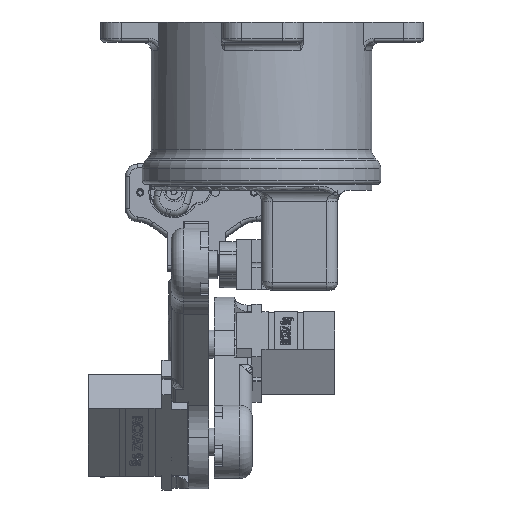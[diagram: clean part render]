
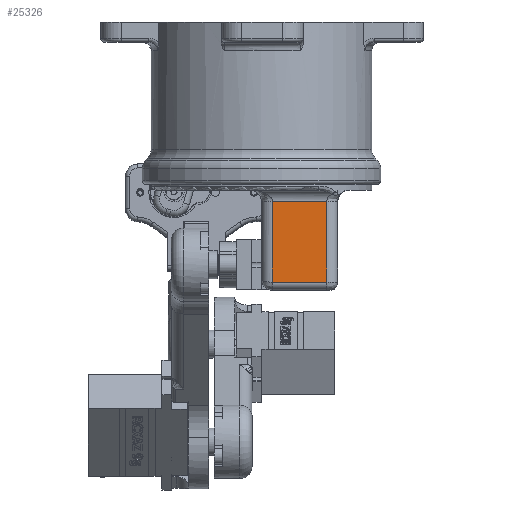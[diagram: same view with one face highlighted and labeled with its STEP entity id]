
A CAD part, left-side view. The second image highlights one B-rep face of the part: STEP entity #25326.
In plain terms, the highlighted planar face has unit normal (-1, 0, 0).
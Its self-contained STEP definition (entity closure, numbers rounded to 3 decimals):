
#7264=PLANE('',#26838);
#7923=FACE_OUTER_BOUND('',#9049,.T.);
#9049=EDGE_LOOP('',(#19667,#19668,#19669,#19670));
#10262=LINE('',#38429,#12095);
#10272=LINE('',#38467,#12105);
#10274=LINE('',#38495,#12107);
#10276=LINE('',#38548,#12109);
#12095=VECTOR('',#29982,10.);
#12105=VECTOR('',#30004,10.);
#12107=VECTOR('',#30018,10.);
#12109=VECTOR('',#30022,10.);
#14272=VERTEX_POINT('',#38387);
#14275=VERTEX_POINT('',#38423);
#14284=VERTEX_POINT('',#38466);
#14285=VERTEX_POINT('',#38483);
#16311=EDGE_CURVE('',#14272,#14275,#10262,.T.);
#16324=EDGE_CURVE('',#14275,#14284,#10272,.T.);
#16332=EDGE_CURVE('',#14284,#14285,#10274,.T.);
#16338=EDGE_CURVE('',#14285,#14272,#10276,.T.);
#19667=ORIENTED_EDGE('',*,*,#16311,.F.);
#19668=ORIENTED_EDGE('',*,*,#16338,.F.);
#19669=ORIENTED_EDGE('',*,*,#16332,.F.);
#19670=ORIENTED_EDGE('',*,*,#16324,.F.);
#25326=ADVANCED_FACE('',(#7923),#7264,.T.);
#26838=AXIS2_PLACEMENT_3D('',#38553,#30027,#30028);
#29982=DIRECTION('',(0.,1.,0.));
#30004=DIRECTION('',(0.,0.,1.));
#30018=DIRECTION('',(0.,-1.,0.));
#30022=DIRECTION('',(0.,0.,-1.));
#30027=DIRECTION('center_axis',(-1.,0.,0.));
#30028=DIRECTION('ref_axis',(0.,-1.,0.));
#38387=CARTESIAN_POINT('',(-19.5,-4.25,2.7));
#38423=CARTESIAN_POINT('',(-19.5,15.55,2.7));
#38429=CARTESIAN_POINT('',(-19.5,3.125,2.7));
#38466=CARTESIAN_POINT('',(-19.5,15.55,16.));
#38467=CARTESIAN_POINT('',(-19.5,15.55,0.));
#38483=CARTESIAN_POINT('',(-19.5,-4.25,16.));
#38495=CARTESIAN_POINT('',(-19.5,3.125,16.));
#38548=CARTESIAN_POINT('',(-19.5,-4.25,0.));
#38553=CARTESIAN_POINT('Origin',(-19.5,6.25,0.));
